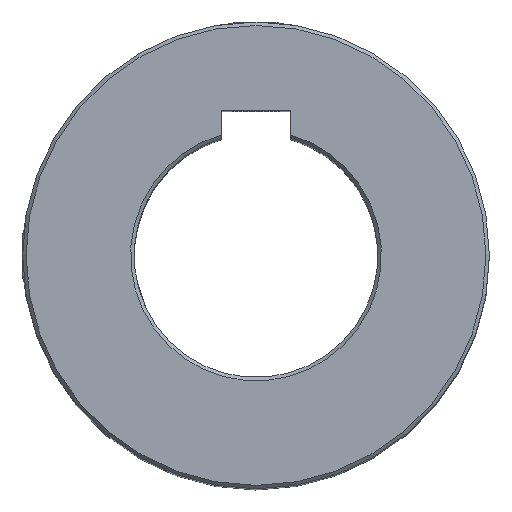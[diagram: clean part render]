
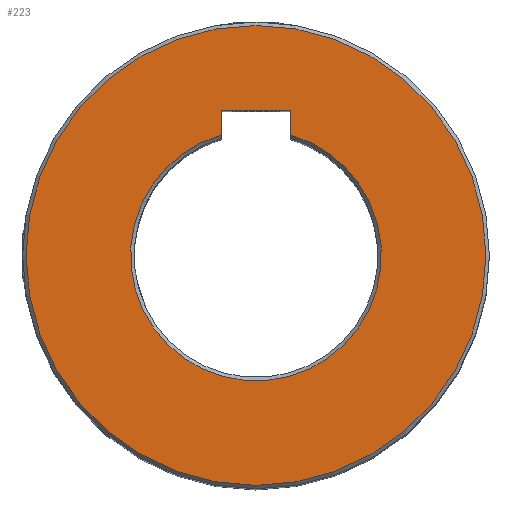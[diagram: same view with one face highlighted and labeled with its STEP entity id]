
A CAD part, top view. The second image highlights one B-rep face of the part: STEP entity #223.
In plain terms, the highlighted planar face has unit normal (0, 0, 1).
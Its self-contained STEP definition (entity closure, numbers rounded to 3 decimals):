
#37 = DIRECTION ( 'NONE',  ( 1., 0., 0. ) ) ;
#123 = VERTEX_POINT ( 'NONE', #7484 ) ;
#223 = ADVANCED_FACE ( 'NONE', ( #4084, #1285 ), #6772, .T. ) ;
#340 = VERTEX_POINT ( 'NONE', #4502 ) ;
#522 = VECTOR ( 'NONE', #3726, 1000. ) ;
#579 = DIRECTION ( 'NONE',  ( 0., -1., 0. ) ) ;
#1045 = CARTESIAN_POINT ( 'NONE',  ( 5., 20.8, 47.5 ) ) ;
#1128 = DIRECTION ( 'NONE',  ( 1., 0., 0. ) ) ;
#1285 = FACE_OUTER_BOUND ( 'NONE', #2204, .T. ) ;
#1326 = EDGE_LOOP ( 'NONE', ( #7373, #8312, #4745, #6115 ) ) ;
#1395 = CARTESIAN_POINT ( 'NONE',  ( 5., 20.8, 47.5 ) ) ;
#1416 = VERTEX_POINT ( 'NONE', #1395 ) ;
#1521 = EDGE_CURVE ( 'NONE', #1416, #123, #7164, .T. ) ;
#1879 = AXIS2_PLACEMENT_3D ( 'NONE', #4673, #7358, #2111 ) ;
#1943 = EDGE_CURVE ( 'NONE', #2634, #1416, #2272, .T. ) ;
#2111 = DIRECTION ( 'NONE',  ( 1., 0., 0. ) ) ;
#2121 = EDGE_CURVE ( 'NONE', #123, #340, #2523, .T. ) ;
#2204 = EDGE_LOOP ( 'NONE', ( #5392 ) ) ;
#2272 = LINE ( 'NONE', #1045, #3144 ) ;
#2523 = LINE ( 'NONE', #5189, #2872 ) ;
#2566 = CIRCLE ( 'NONE', #7357, 18. ) ;
#2634 = VERTEX_POINT ( 'NONE', #3880 ) ;
#2872 = VECTOR ( 'NONE', #579, 1000. ) ;
#3144 = VECTOR ( 'NONE', #3576, 1000. ) ;
#3270 = VERTEX_POINT ( 'NONE', #4570 ) ;
#3376 = EDGE_CURVE ( 'NONE', #2634, #340, #2566, .T. ) ;
#3576 = DIRECTION ( 'NONE',  ( 0., 1., 0. ) ) ;
#3656 = AXIS2_PLACEMENT_3D ( 'NONE', #4574, #4481, #1128 ) ;
#3726 = DIRECTION ( 'NONE',  ( -1., 0., 0. ) ) ;
#3880 = CARTESIAN_POINT ( 'NONE',  ( 5., 17.292, 47.5 ) ) ;
#4068 = CARTESIAN_POINT ( 'NONE',  ( 0., 0., 47.5 ) ) ;
#4084 = FACE_BOUND ( 'NONE', #1326, .T. ) ;
#4481 = DIRECTION ( 'NONE',  ( 0., 0., 1. ) ) ;
#4502 = CARTESIAN_POINT ( 'NONE',  ( -5., 17.292, 47.5 ) ) ;
#4570 = CARTESIAN_POINT ( 'NONE',  ( 33., 0., 47.5 ) ) ;
#4574 = CARTESIAN_POINT ( 'NONE',  ( 0., 0., 47.5 ) ) ;
#4673 = CARTESIAN_POINT ( 'NONE',  ( 0., 0., 47.5 ) ) ;
#4745 = ORIENTED_EDGE ( 'NONE', *, *, #1943, .F. ) ;
#5189 = CARTESIAN_POINT ( 'NONE',  ( -5., 20.8, 47.5 ) ) ;
#5323 = CIRCLE ( 'NONE', #3656, 33. ) ;
#5392 = ORIENTED_EDGE ( 'NONE', *, *, #5482, .T. ) ;
#5482 = EDGE_CURVE ( 'NONE', #3270, #3270, #5323, .T. ) ;
#5953 = DIRECTION ( 'NONE',  ( 0., 0., -1. ) ) ;
#6115 = ORIENTED_EDGE ( 'NONE', *, *, #3376, .T. ) ;
#6772 = PLANE ( 'NONE',  #1879 ) ;
#7164 = LINE ( 'NONE', #8480, #522 ) ;
#7357 = AXIS2_PLACEMENT_3D ( 'NONE', #4068, #5953, #37 ) ;
#7358 = DIRECTION ( 'NONE',  ( 0., 0., 1. ) ) ;
#7373 = ORIENTED_EDGE ( 'NONE', *, *, #2121, .F. ) ;
#7484 = CARTESIAN_POINT ( 'NONE',  ( -5., 20.8, 47.5 ) ) ;
#8312 = ORIENTED_EDGE ( 'NONE', *, *, #1521, .F. ) ;
#8480 = CARTESIAN_POINT ( 'NONE',  ( -5., 20.8, 47.5 ) ) ;
